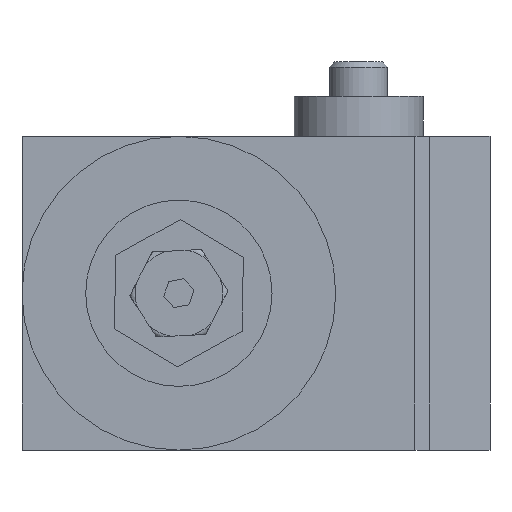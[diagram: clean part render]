
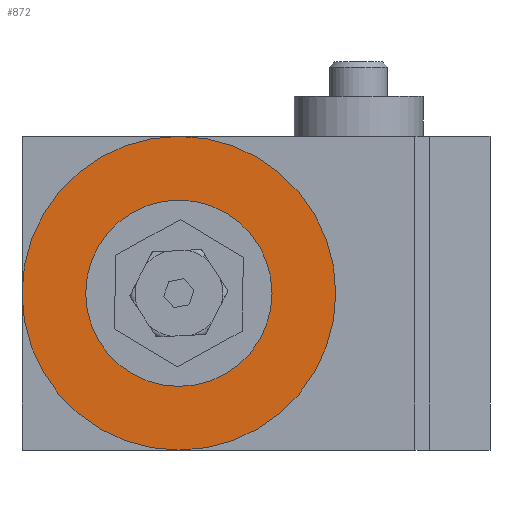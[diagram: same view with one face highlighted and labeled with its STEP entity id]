
A CAD part, left-side view. The second image highlights one B-rep face of the part: STEP entity #872.
In plain terms, the highlighted planar face has unit normal (-1, 0, 0).
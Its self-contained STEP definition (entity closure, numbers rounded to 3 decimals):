
#307=PLANE('',#5671);
#872=ADVANCED_FACE('',(#1248),#307,.F.);
#1248=FACE_OUTER_BOUND('',#1558,.T.);
#1558=EDGE_LOOP('',(#2690));
#2051=CIRCLE('',#5668,59.);
#2690=ORIENTED_EDGE('',*,*,#4286,.F.);
#3717=VERTEX_POINT('',#22082);
#4286=EDGE_CURVE('',#3717,#3717,#2051,.T.);
#5668=AXIS2_PLACEMENT_3D('',#22081,#6527,#6528);
#5671=AXIS2_PLACEMENT_3D('',#22086,#6533,#6534);
#6527=DIRECTION('',(1.,0.,0.));
#6528=DIRECTION('',(0.,1.,0.));
#6533=DIRECTION('',(1.,0.,0.));
#6534=DIRECTION('',(0.,0.,-1.));
#22081=CARTESIAN_POINT('',(-133.5,29.,59.));
#22082=CARTESIAN_POINT('',(-133.5,88.,59.));
#22086=CARTESIAN_POINT('',(-133.5,29.,59.));
